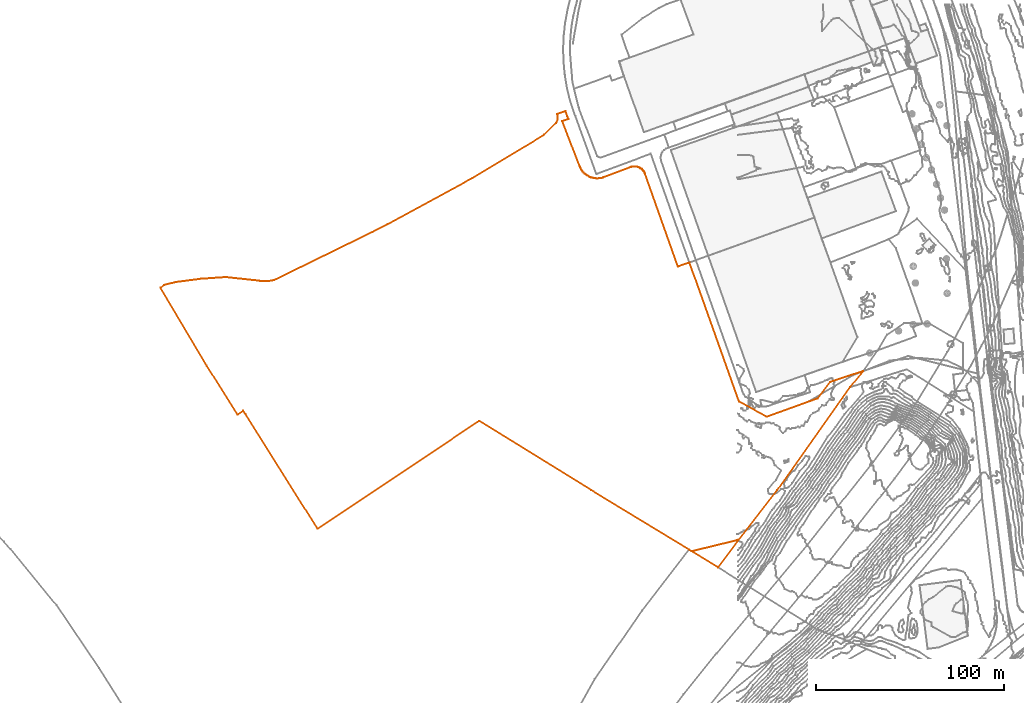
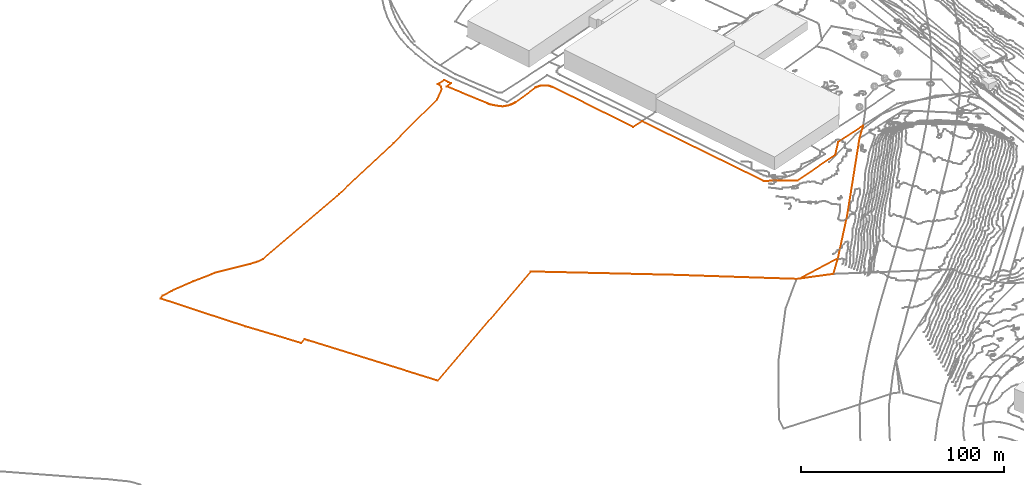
# Not in any storey, part 280 of 419: 2 proxies.
"""IFC2X3 model written with IfcOpenShell, lengths in metres."""

from ifc_helpers import new_model, entity, si_unit, frame, origin_with_axes, place, context, subcontext, project, element, save


model = new_model("IFC2X3")

# Units and contexts
model_context = context("Model", 3, precision=1e-05, world=origin_with_axes())
body_context = subcontext(model_context, "Body", "Model", "MODEL_VIEW")
ifc_project = project(units=[si_unit("AREAUNIT", "SQUARE_METRE"), si_unit("LENGTHUNIT", "METRE")], contexts=[model_context])

# Proxies
proxy_1_placement = place(None, frame((-307.8279795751, 881.337690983, 21.2093991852), z_axis=(0.0, 0.0, 1.0), x_axis=(1.0, 0.0, 0.0)))
element("IfcBuildingElementProxy", 1, at=proxy_1_placement, Name="Cadastre 257", ObjectType="NOTDEFINED", context=body_context, shape_type="GeometricCurveSet", body=[
    entity("IfcGeometricCurveSet", [entity("IfcPolyline", [entity("IfcCartesianPoint", [281.7899999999, -139.6699999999, -2.1230989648]), entity("IfcCartesianPoint", [229.5099999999, -107.8300000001, -0.6560998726]), entity("IfcCartesianPoint", [170.0199999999, -70.9700000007, -0.1893987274]), entity("IfcCartesianPoint", [83.83, -128.5100000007, -0.8420992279]), entity("IfcCartesianPoint", [45.3999999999, -67.4500000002, -0.204499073]), entity("IfcCartesianPoint", [44.2, -65.54, -0.2413991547]), entity("IfcCartesianPoint", [41.1799999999, -67.6000000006, -0.2059991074]), entity("IfcCartesianPoint", [24.6799999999, -41.4199999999, -0.3021994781]), entity("IfcCartesianPoint", [0.0, 0.0, 0.0]), entity("IfcCartesianPoint", [2.08, 1.5199999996, 0.0106001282]), entity("IfcCartesianPoint", [7.96, 2.9799999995, 0.0198003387]), entity("IfcCartesianPoint", [21.61, 4.7799999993, 0.0378007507]), entity("IfcCartesianPoint", [34.8199999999, 5.6600000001, 0.0466009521]), entity("IfcCartesianPoint", [53.2599999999, 3.6699999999, 0.0267004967]), entity("IfcCartesianPoint", [57.36, 3.5099999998, 0.0251004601]), entity("IfcCartesianPoint", [60.72, 4.0899999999, 0.0309005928]), entity("IfcCartesianPoint", [121.23, 33.8499999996, -0.1014986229]), entity("IfcCartesianPoint", [166.5599999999, 58.5899999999, -0.2270985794]), entity("IfcCartesianPoint", [204.6699999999, 81.5599999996, -1.1793994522]), entity("IfcCartesianPoint", [211.0599999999, 87.9199999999, -1.1263989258]), entity("IfcCartesianPoint", [211.86, 89.9799999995, -1.1093988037]), entity("IfcCartesianPoint", [211.87, 91.6799999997, -1.1031986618]), entity("IfcCartesianPoint", [211.5, 92.6899999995, -1.0993985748]), entity("IfcCartesianPoint", [216.0699999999, 94.1799999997, -1.0981985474]), entity("IfcCartesianPoint", [216.8799999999, 91.6399999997, -1.103598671]), entity("IfcCartesianPoint", [217.5299999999, 90.0299999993, -1.1093988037]), entity("IfcCartesianPoint", [214.2899999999, 88.8599999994, -1.1113988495]), entity("IfcCartesianPoint", [223.5099999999, 64.8300000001, 0.1406011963]), entity("IfcCartesianPoint", [223.72, 64.2999999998, 0.1406011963]), entity("IfcCartesianPoint", [224.0299999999, 63.6799999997, 0.1406011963]), entity("IfcCartesianPoint", [224.37, 63.0599999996, 0.1406011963]), entity("IfcCartesianPoint", [224.7599999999, 62.4799999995, 0.146401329]), entity("IfcCartesianPoint", [225.1799999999, 61.9299999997, 0.1584013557]), entity("IfcCartesianPoint", [225.6499999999, 61.3999999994, 0.1902010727]), entity("IfcCartesianPoint", [226.1399999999, 60.9299999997, 0.1885008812]), entity("IfcCartesianPoint", [226.6699999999, 60.4699999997, 0.1103008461]), entity("IfcCartesianPoint", [227.24, 60.0599999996, 0.0406008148]), entity("IfcCartesianPoint", [227.8199999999, 59.6799999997, -0.0771989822]), entity("IfcCartesianPoint", [228.4399999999, 59.3499999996, -0.179498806]), entity("IfcCartesianPoint", [229.08, 59.0599999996, -0.2693986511]), entity("IfcCartesianPoint", [229.74, 58.8199999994, -0.2477986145]), entity("IfcCartesianPoint", [230.3999999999, 58.6200000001, -0.229798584]), entity("IfcCartesianPoint", [231.08, 58.4699999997, -0.2162985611]), entity("IfcCartesianPoint", [231.7699999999, 58.3599999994, -0.2063985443]), entity("IfcCartesianPoint", [232.47, 58.3199999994, -0.2027985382]), entity("IfcCartesianPoint", [233.1699999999, 58.3099999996, -0.2018985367]), entity("IfcCartesianPoint", [233.87, 58.3499999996, -0.2054985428]), entity("IfcCartesianPoint", [234.5599999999, 58.4399999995, -0.2135985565]), entity("IfcCartesianPoint", [235.24, 58.5899999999, -0.2270985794]), entity("IfcCartesianPoint", [235.9199999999, 58.7799999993, -0.2441986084]), entity("IfcCartesianPoint", [236.37, 58.9299999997, -0.2576986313]), entity("IfcCartesianPoint", [250.6799999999, 64.3499999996, 0.1406011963]), entity("IfcCartesianPoint", [250.8899999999, 64.4299999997, 0.1406011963]), entity("IfcCartesianPoint", [251.2899999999, 64.5299999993, 0.1406011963]), entity("IfcCartesianPoint", [251.7, 64.6200000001, 0.1406011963]), entity("IfcCartesianPoint", [252.11, 64.6799999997, 0.1406011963]), entity("IfcCartesianPoint", [252.5299999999, 64.6999999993, 0.1406011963]), entity("IfcCartesianPoint", [252.95, 64.6999999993, 0.1406011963]), entity("IfcCartesianPoint", [253.37, 64.6699999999, 0.1406011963]), entity("IfcCartesianPoint", [253.7799999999, 64.5999999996, 0.1406011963]), entity("IfcCartesianPoint", [254.1899999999, 64.5099999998, 0.1406011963]), entity("IfcCartesianPoint", [254.59, 64.3999999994, 0.1406011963]), entity("IfcCartesianPoint", [254.99, 64.2399999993, 0.1406011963]), entity("IfcCartesianPoint", [255.37, 64.0699999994, 0.1406011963]), entity("IfcCartesianPoint", [255.74, 63.8799999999, 0.1406011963]), entity("IfcCartesianPoint", [256.1, 63.6499999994, 0.1406011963]), entity("IfcCartesianPoint", [256.4299999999, 63.3999999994, 0.1406011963]), entity("IfcCartesianPoint", [256.75, 63.1399999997, 0.1406011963]), entity("IfcCartesianPoint", [257.0599999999, 62.8499999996, 0.1427012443]), entity("IfcCartesianPoint", [257.34, 62.54, 0.1458013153]), entity("IfcCartesianPoint", [257.58, 62.1999999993, 0.1492013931]), entity("IfcCartesianPoint", [257.8199999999, 61.8499999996, 0.163201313]), entity("IfcCartesianPoint", [258.0299999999, 61.4899999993, 0.1848011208]), entity("IfcCartesianPoint", [258.21, 61.1099999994, 0.2076009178]), entity("IfcCartesianPoint", [258.36, 60.7299999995, 0.1545008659]), entity("IfcCartesianPoint", [275.9399999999, 11.3399999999, -0.0721998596]), entity("IfcCartesianPoint", [282.08, 13.5299999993, -0.0840992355]), entity("IfcCartesianPoint", [308.5299999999, -60.7300000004, -0.3274063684]), entity("IfcCartesianPoint", [323.25, -68.79, -0.3080095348]), entity("IfcCartesianPoint", [350.36, -58.9900000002, -0.3468586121]), entity("IfcCartesianPoint", [357.1899999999, -50.1900000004, -0.2330496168]), entity("IfcCartesianPoint", [374.7599999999, -44.4300000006, 0.0406008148]), entity("IfcCartesianPoint", [367.6599999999, -53.0500000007, 0.0534963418]), entity("IfcCartesianPoint", [328.7899999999, -108.0200000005, -0.0915235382]), entity("IfcCartesianPoint", [308.4099999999, -134.3399999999, -2.1260395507]), entity("IfcCartesianPoint", [283.1599999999, -140.5100000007, -1.8512991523]), entity("IfcCartesianPoint", [281.7899999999, -139.6699999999, -2.1230989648])])]),
])
proxy_2_placement = place(None, frame((-24.6679795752, 740.8276909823, 19.3581000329), z_axis=(0.0, 0.0, 1.0), x_axis=(1.0, 0.0, 0.0)))
element("IfcBuildingElementProxy", 2, at=proxy_2_placement, Name="Cadastre 394", ObjectType="NOTDEFINED", context=body_context, shape_type="GeometricCurveSet", body=[
    entity("IfcGeometricCurveSet", [entity("IfcPolyline", [entity("IfcCartesianPoint", [25.25, 6.1700000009, -0.2747403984]), entity("IfcCartesianPoint", [14.0800000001, -8.6199999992, 3.05409996]), entity("IfcCartesianPoint", [0.0, 0.0, 0.0]), entity("IfcCartesianPoint", [25.25, 6.1700000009, -0.2747403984])])]),
])

save(model, "model.ifc")
